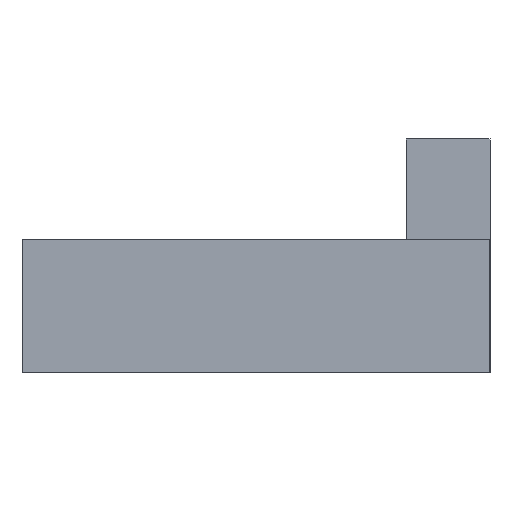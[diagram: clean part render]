
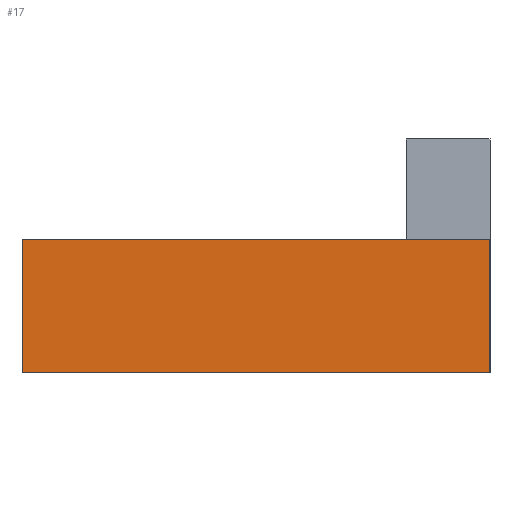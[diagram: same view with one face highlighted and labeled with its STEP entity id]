
A CAD part, left-side view. The second image highlights one B-rep face of the part: STEP entity #17.
In plain terms, the highlighted planar face has unit normal (-1, 0, 0).
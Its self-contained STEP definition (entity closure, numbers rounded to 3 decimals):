
#17 = ADVANCED_FACE('',(#18),#32,.F.);
#18 = FACE_BOUND('',#19,.F.);
#19 = EDGE_LOOP('',(#20,#55,#83,#111));
#20 = ORIENTED_EDGE('',*,*,#21,.F.);
#21 = EDGE_CURVE('',#22,#24,#26,.T.);
#22 = VERTEX_POINT('',#23);
#23 = CARTESIAN_POINT('',(0.,0.,0.));
#24 = VERTEX_POINT('',#25);
#25 = CARTESIAN_POINT('',(0.,0.,8.));
#26 = SURFACE_CURVE('',#27,(#31,#43),.PCURVE_S1.);
#27 = LINE('',#28,#29);
#28 = CARTESIAN_POINT('',(0.,0.,0.));
#29 = VECTOR('',#30,1.);
#30 = DIRECTION('',(0.,0.,1.));
#31 = PCURVE('',#32,#37);
#32 = PLANE('',#33);
#33 = AXIS2_PLACEMENT_3D('',#34,#35,#36);
#34 = CARTESIAN_POINT('',(0.,0.,0.));
#35 = DIRECTION('',(1.,0.,0.));
#36 = DIRECTION('',(0.,0.,1.));
#37 = DEFINITIONAL_REPRESENTATION('',(#38),#42);
#38 = LINE('',#39,#40);
#39 = CARTESIAN_POINT('',(0.,0.));
#40 = VECTOR('',#41,1.);
#41 = DIRECTION('',(1.,0.));
#42 = ( GEOMETRIC_REPRESENTATION_CONTEXT(2) 
PARAMETRIC_REPRESENTATION_CONTEXT() REPRESENTATION_CONTEXT('2D SPACE',''
  ) );
#43 = PCURVE('',#44,#49);
#44 = PLANE('',#45);
#45 = AXIS2_PLACEMENT_3D('',#46,#47,#48);
#46 = CARTESIAN_POINT('',(0.,0.,0.));
#47 = DIRECTION('',(0.,1.,0.));
#48 = DIRECTION('',(0.,0.,1.));
#49 = DEFINITIONAL_REPRESENTATION('',(#50),#54);
#50 = LINE('',#51,#52);
#51 = CARTESIAN_POINT('',(0.,0.));
#52 = VECTOR('',#53,1.);
#53 = DIRECTION('',(1.,0.));
#54 = ( GEOMETRIC_REPRESENTATION_CONTEXT(2) 
PARAMETRIC_REPRESENTATION_CONTEXT() REPRESENTATION_CONTEXT('2D SPACE',''
  ) );
#55 = ORIENTED_EDGE('',*,*,#56,.T.);
#56 = EDGE_CURVE('',#22,#57,#59,.T.);
#57 = VERTEX_POINT('',#58);
#58 = CARTESIAN_POINT('',(0.,28.,0.));
#59 = SURFACE_CURVE('',#60,(#64,#71),.PCURVE_S1.);
#60 = LINE('',#61,#62);
#61 = CARTESIAN_POINT('',(0.,0.,0.));
#62 = VECTOR('',#63,1.);
#63 = DIRECTION('',(0.,1.,0.));
#64 = PCURVE('',#32,#65);
#65 = DEFINITIONAL_REPRESENTATION('',(#66),#70);
#66 = LINE('',#67,#68);
#67 = CARTESIAN_POINT('',(0.,0.));
#68 = VECTOR('',#69,1.);
#69 = DIRECTION('',(0.,-1.));
#70 = ( GEOMETRIC_REPRESENTATION_CONTEXT(2) 
PARAMETRIC_REPRESENTATION_CONTEXT() REPRESENTATION_CONTEXT('2D SPACE',''
  ) );
#71 = PCURVE('',#72,#77);
#72 = PLANE('',#73);
#73 = AXIS2_PLACEMENT_3D('',#74,#75,#76);
#74 = CARTESIAN_POINT('',(0.,0.,0.));
#75 = DIRECTION('',(0.,0.,1.));
#76 = DIRECTION('',(1.,0.,0.));
#77 = DEFINITIONAL_REPRESENTATION('',(#78),#82);
#78 = LINE('',#79,#80);
#79 = CARTESIAN_POINT('',(0.,0.));
#80 = VECTOR('',#81,1.);
#81 = DIRECTION('',(0.,1.));
#82 = ( GEOMETRIC_REPRESENTATION_CONTEXT(2) 
PARAMETRIC_REPRESENTATION_CONTEXT() REPRESENTATION_CONTEXT('2D SPACE',''
  ) );
#83 = ORIENTED_EDGE('',*,*,#84,.T.);
#84 = EDGE_CURVE('',#57,#85,#87,.T.);
#85 = VERTEX_POINT('',#86);
#86 = CARTESIAN_POINT('',(0.,28.,8.));
#87 = SURFACE_CURVE('',#88,(#92,#99),.PCURVE_S1.);
#88 = LINE('',#89,#90);
#89 = CARTESIAN_POINT('',(0.,28.,0.));
#90 = VECTOR('',#91,1.);
#91 = DIRECTION('',(0.,0.,1.));
#92 = PCURVE('',#32,#93);
#93 = DEFINITIONAL_REPRESENTATION('',(#94),#98);
#94 = LINE('',#95,#96);
#95 = CARTESIAN_POINT('',(0.,-28.));
#96 = VECTOR('',#97,1.);
#97 = DIRECTION('',(1.,0.));
#98 = ( GEOMETRIC_REPRESENTATION_CONTEXT(2) 
PARAMETRIC_REPRESENTATION_CONTEXT() REPRESENTATION_CONTEXT('2D SPACE',''
  ) );
#99 = PCURVE('',#100,#105);
#100 = PLANE('',#101);
#101 = AXIS2_PLACEMENT_3D('',#102,#103,#104);
#102 = CARTESIAN_POINT('',(0.,28.,0.));
#103 = DIRECTION('',(0.,1.,0.));
#104 = DIRECTION('',(0.,0.,1.));
#105 = DEFINITIONAL_REPRESENTATION('',(#106),#110);
#106 = LINE('',#107,#108);
#107 = CARTESIAN_POINT('',(0.,0.));
#108 = VECTOR('',#109,1.);
#109 = DIRECTION('',(1.,0.));
#110 = ( GEOMETRIC_REPRESENTATION_CONTEXT(2) 
PARAMETRIC_REPRESENTATION_CONTEXT() REPRESENTATION_CONTEXT('2D SPACE',''
  ) );
#111 = ORIENTED_EDGE('',*,*,#112,.F.);
#112 = EDGE_CURVE('',#24,#85,#113,.T.);
#113 = SURFACE_CURVE('',#114,(#118,#125),.PCURVE_S1.);
#114 = LINE('',#115,#116);
#115 = CARTESIAN_POINT('',(0.,0.,8.));
#116 = VECTOR('',#117,1.);
#117 = DIRECTION('',(0.,1.,0.));
#118 = PCURVE('',#32,#119);
#119 = DEFINITIONAL_REPRESENTATION('',(#120),#124);
#120 = LINE('',#121,#122);
#121 = CARTESIAN_POINT('',(8.,0.));
#122 = VECTOR('',#123,1.);
#123 = DIRECTION('',(0.,-1.));
#124 = ( GEOMETRIC_REPRESENTATION_CONTEXT(2) 
PARAMETRIC_REPRESENTATION_CONTEXT() REPRESENTATION_CONTEXT('2D SPACE',''
  ) );
#125 = PCURVE('',#126,#131);
#126 = PLANE('',#127);
#127 = AXIS2_PLACEMENT_3D('',#128,#129,#130);
#128 = CARTESIAN_POINT('',(0.,0.,8.));
#129 = DIRECTION('',(0.,0.,1.));
#130 = DIRECTION('',(1.,0.,0.));
#131 = DEFINITIONAL_REPRESENTATION('',(#132),#136);
#132 = LINE('',#133,#134);
#133 = CARTESIAN_POINT('',(0.,0.));
#134 = VECTOR('',#135,1.);
#135 = DIRECTION('',(0.,1.));
#136 = ( GEOMETRIC_REPRESENTATION_CONTEXT(2) 
PARAMETRIC_REPRESENTATION_CONTEXT() REPRESENTATION_CONTEXT('2D SPACE',''
  ) );
